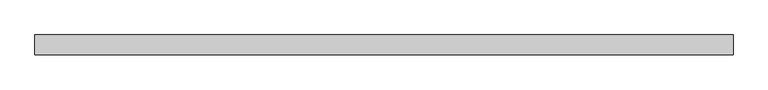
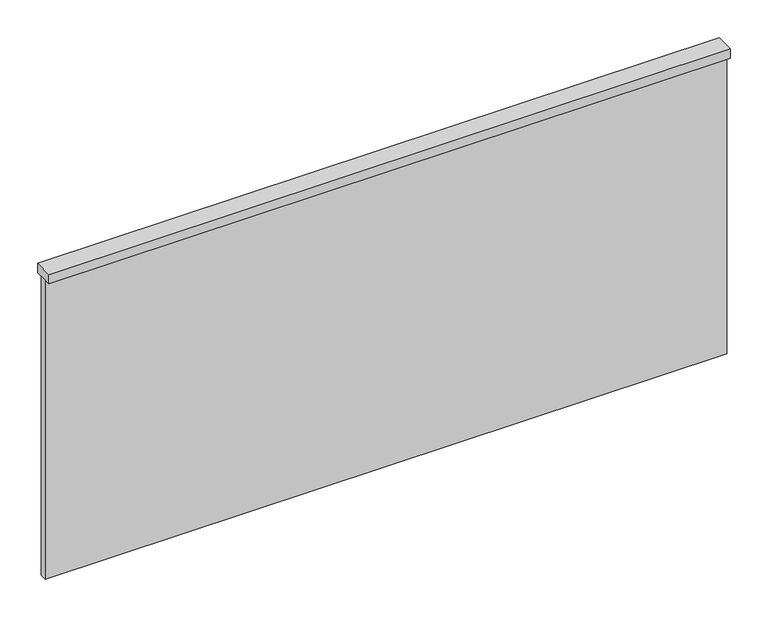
"""IFC4 building model written with IfcOpenShell, lengths in millimetres: proxy geometry, 防煙垂壁 : 可動防煙垂壁."""

from ifc_helpers import new_model, si_unit, frame, origin, place, context, project, spatial, polyline, outline, extrude, source, transform, mapped, element, save


def generic_models_7d721c24(model_context):
    return source(origin(), model_context, "Body", "SweptSolid", [
        extrude(outline(polyline([(5.0, 0.0), (-5.0, 0.0), (-5.0, 1045.0), (5.0, 1045.0), (5.0, 0.0)])), frame((1045.0, 0.0, 1800.0), z_axis=(0.0, -1.3535839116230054e-12, 1.0), x_axis=(0.0, 1.0, 1.3535839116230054e-12)), (0.0, 0.0, 1.0), 485.0),
        extrude(outline(polyline([(1045.0, 15.0), (1045.0, -15.0), (0.0, -15.0), (0.0, 15.0), (1045.0, 15.0)])), frame((0.0, 0.0, 2285.0), z_axis=(0.0, 0.0, 1.0), x_axis=(1.0, 0.0, 0.0)), (0.0, 0.0, 1.0), 15.0),
    ])


if __name__ == "__main__":
    model = new_model("IFC4")
    model_context = context("Model", 3, world=origin())
    ifc_project = project(units=[si_unit("LENGTHUNIT", "METRE", prefix="MILLI")], contexts=[model_context])
    site = spatial("IfcSite", under=ifc_project)
    building = spatial("IfcBuilding", under=site)
    placement = place(None, origin())
    generic_models_shape = generic_models_7d721c24(model_context)
    element("IfcBuildingElementProxy", 1, Name="防煙垂壁 : 可動防煙垂壁", ObjectType="防煙垂壁 : 可動防煙垂壁", at=placement, inside=building, context=model_context, shape_type="MappedRepresentation", body=[
        mapped(generic_models_shape, transform((0.0, 0.0, 0.0), x_axis=(1.0, 0.0, 0.0), y_axis=(0.0, 1.0, 0.0), z_axis=(0.0, 0.0, 1.0))),
    ])
    save(model, "model.ifc")
